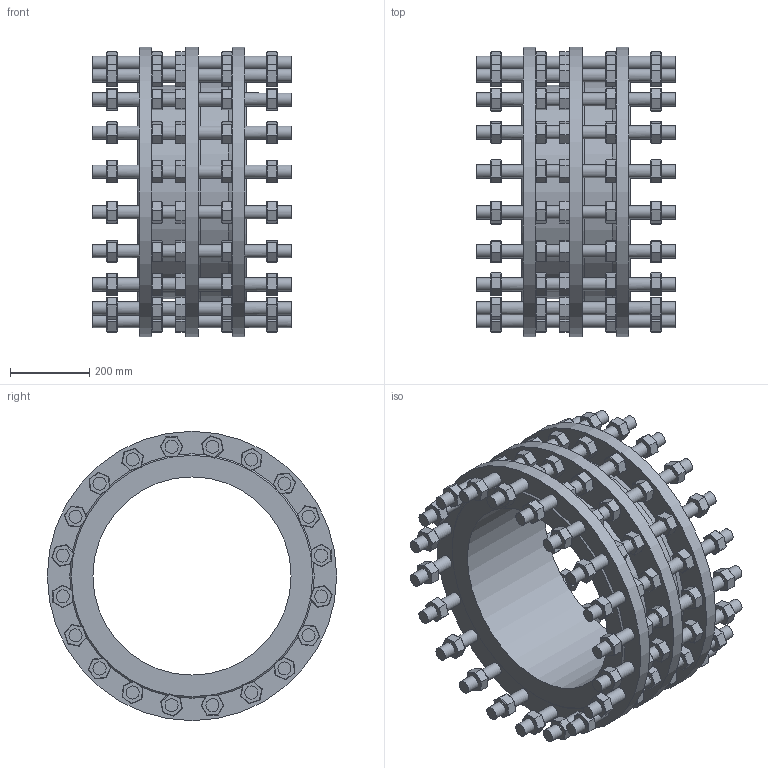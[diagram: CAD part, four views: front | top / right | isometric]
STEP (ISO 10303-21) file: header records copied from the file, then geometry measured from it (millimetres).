
FILE_DESCRIPTION (( 'STEP AP203' ), '1' );
FILE_NAME ('873050000741000.STEP', '2021-11-05T09:51:21', ( '' ), ( '' ), 'SwSTEP 2.0', 'SolidWorks 2020', '' );
FILE_SCHEMA (( 'CONFIG_CONTROL_DESIGN' ));
Length unit declared in the file: millimetre
Products named in the file (1): 873050000741000
Bounding box: 500 x 730 x 730 mm (x, y, z)
Volume: 40453659.6 mm3; surface area: 3847149.2 mm2
Topology: 101 solids, 101 shells, 2439 faces, 5247 edges, 3057 vertices
Faces by surface type: plane 2049, cone 203, cylinder 187
Full cylindrical faces by diameter (mm): 28 x100, 33 x80, 500 x1, 540 x1, 560 x1, 576 x1, 730 x3
Entity records: 61225 total; most frequent: DIRECTION 10238, CARTESIAN_POINT 10198, ORIENTED_EDGE 9558, EDGE_CURVE 4779, LINE 4200, VECTOR 4200, EDGE_LOOP 3158, AXIS2_PLACEMENT_3D 3019
